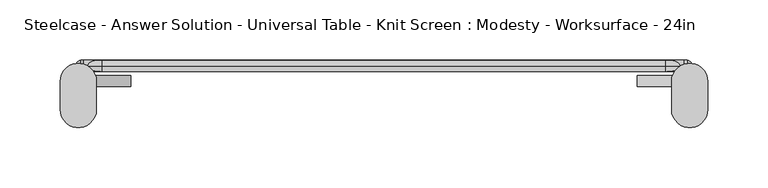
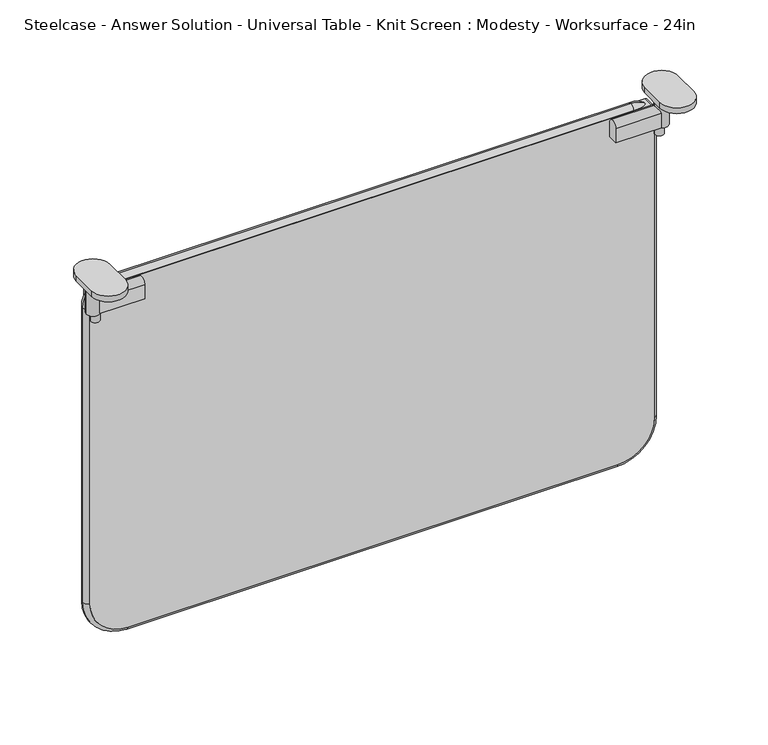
"""IFC4 building model written with IfcOpenShell, lengths in millimetres: furniture geometry, Steelcase - Answer Solution - Universal Table - Knit Screen : Modesty - Worksurface - 24in."""

from ifc_helpers import new_model, si_unit, point, frame, frame_2d, origin, place, context, project, spatial, polyline, circle_curve, ellipse_curve, trimmed, segment, composite_curve, outline, extrude, source, transform, mapped, element, save
from ifc_brep_helpers import plane_surface, cylinder_surface, revolved_surface, advanced_brep


def steelcase_answer_solution_universal_table_knit_screen_e3ca921f(model_context):
    return source(origin(), model_context, "Body", "SolidModel", [
        extrude(outline(composite_curve([segment(polyline([(-29.128946, 652.4216837), (-29.128946, 665.7829841)]), True, "CONTINUOUS"), segment(trimmed(circle_curve(frame_2d((-24.4350465, 665.7829841)), 4.6938995), [point((-29.128946, 665.7829841))], [point((-19.7411469, 665.7829841))], False, "CARTESIAN"), True, "CONTINUOUS"), segment(polyline([(-19.7411469, 665.7829841), (-19.7411469, 652.4216837), (-29.128946, 652.4216837)]), True, "CONTINUOUS")], self_intersect=False)), frame((511.8167228, 0.0, 0.0), z_axis=(1.0, 0.0, 0.0), x_axis=(0.0, 1.0, 0.0)), (0.0, 0.0, 1.0), 43.5285515),
        extrude(outline(composite_curve([segment(trimmed(circle_curve(frame_2d((553.4143327, -24.4352196)), 3.96875), [point((557.3830827, -24.4352196))], [point((549.4455827, -24.4352196))], False, "CARTESIAN"), True, "CONTINUOUS"), segment(trimmed(circle_curve(frame_2d((553.4143327, -24.4352196)), 3.96875), [point((549.4455827, -24.4352196))], [point((557.3830827, -24.4352196))], False, "CARTESIAN"), True, "CONTINUOUS")], self_intersect=False)), frame((0.0, 0.0, 644.3415626), z_axis=(0.0, 0.0, 1.0), x_axis=(1.0, 0.0, 0.0)), (0.0, 0.0, 1.0), 8.0801211),
        extrude(outline(composite_curve([segment(trimmed(circle_curve(frame_2d((555.3452743, -24.4352196)), 5.8800133), [point((561.2252876, -24.4352196))], [point((549.465261, -24.4352196))], False, "CARTESIAN"), True, "CONTINUOUS"), segment(trimmed(circle_curve(frame_2d((555.3452743, -24.4352196)), 5.8800133), [point((549.465261, -24.4352196))], [point((561.2252876, -24.4352196))], False, "CARTESIAN"), True, "CONTINUOUS")], self_intersect=False)), frame((0.0, 0.0, 652.4216837), z_axis=(0.0, 0.0, 1.0), x_axis=(1.0, 0.0, 0.0)), (0.0, 0.0, 1.0), 34.3007611),
        extrude(outline(composite_curve([segment(polyline([(570.401332, -24.6349615), (570.401332, -48.0866189)]), True, "CONTINUOUS"), segment(trimmed(circle_curve(frame_2d((555.345565, -48.0866189)), 15.0557671), [point((570.401332, -48.0866189))], [point((540.2897979, -48.0866189))], False, "CARTESIAN"), True, "CONTINUOUS"), segment(polyline([(540.2897979, -48.0866189), (540.2897979, -24.6349615)]), True, "CONTINUOUS"), segment(trimmed(circle_curve(frame_2d((555.345565, -24.6349615)), 15.0557671), [point((540.2897979, -24.6349615))], [point((570.401332, -24.6349615))], False, "CARTESIAN"), True, "CONTINUOUS")], self_intersect=False)), frame((0.0, 0.0, 686.7224448), z_axis=(0.0, 0.0, 1.0), x_axis=(1.0, 0.0, 0.0)), (0.0, 0.0, 1.0), 5.4275552),
        extrude(outline(composite_curve([segment(polyline([(-29.128946, 652.4216837), (-29.128946, 665.7829841)]), True, "CONTINUOUS"), segment(trimmed(circle_curve(frame_2d((-24.4350465, 665.7829841)), 4.6938995), [point((-29.128946, 665.7829841))], [point((-19.7411469, 665.7829841))], False, "CARTESIAN"), True, "CONTINUOUS"), segment(polyline([(-19.7411469, 665.7829841), (-19.7411469, 652.4216837), (-29.128946, 652.4216837)]), True, "CONTINUOUS")], self_intersect=False)), frame((47.6108911, 0.0, 0.0), z_axis=(1.0, 0.0, 0.0), x_axis=(0.0, 1.0, 0.0)), (0.0, 0.0, 1.0), 43.5285515),
        extrude(outline(composite_curve([segment(trimmed(circle_curve(frame_2d((49.5418327, -24.4352196)), 3.96875), [point((45.5730827, -24.4352196))], [point((53.5105827, -24.4352196))], False, "CARTESIAN"), True, "CONTINUOUS"), segment(trimmed(circle_curve(frame_2d((49.5418327, -24.4352196)), 3.96875), [point((53.5105827, -24.4352196))], [point((45.5730827, -24.4352196))], False, "CARTESIAN"), True, "CONTINUOUS")], self_intersect=False)), frame((0.0, 0.0, 644.3415626), z_axis=(0.0, 0.0, 1.0), x_axis=(1.0, 0.0, 0.0)), (0.0, 0.0, 1.0), 8.0801211),
        extrude(outline(composite_curve([segment(trimmed(circle_curve(frame_2d((47.6108911, -24.4352196)), 5.8800133), [point((41.7308778, -24.4352196))], [point((53.4909043, -24.4352196))], False, "CARTESIAN"), True, "CONTINUOUS"), segment(trimmed(circle_curve(frame_2d((47.6108911, -24.4352196)), 5.8800133), [point((53.4909043, -24.4352196))], [point((41.7308778, -24.4352196))], False, "CARTESIAN"), True, "CONTINUOUS")], self_intersect=False)), frame((0.0, 0.0, 652.4216837), z_axis=(0.0, 0.0, 1.0), x_axis=(1.0, 0.0, 0.0)), (0.0, 0.0, 1.0), 34.3007611),
        extrude(outline(composite_curve([segment(trimmed(circle_curve(frame_2d((47.6106004, -24.6349615)), 15.0557671), [point((32.5548333, -24.6349615))], [point((62.6663674, -24.6349615))], False, "CARTESIAN"), True, "CONTINUOUS"), segment(polyline([(62.6663674, -24.6349615), (62.6663674, -48.0866189)]), True, "CONTINUOUS"), segment(trimmed(circle_curve(frame_2d((47.6106004, -48.0866189)), 15.0557671), [point((62.6663674, -48.0866189))], [point((32.5548333, -48.0866189))], False, "CARTESIAN"), True, "CONTINUOUS"), segment(polyline([(32.5548333, -48.0866189), (32.5548333, -24.6349615)]), True, "CONTINUOUS")], self_intersect=False)), frame((0.0, 0.0, 686.7224448), z_axis=(0.0, 0.0, 1.0), x_axis=(1.0, 0.0, 0.0)), (0.0, 0.0, 1.0), 5.4275552),
        extrude(outline(composite_curve([segment(trimmed(circle_curve(frame_2d((370.6234529, 520.3969049)), 33.0004615), [point((337.6229913, 520.3969049))], [point((370.6234529, 553.3973664))], False, "CARTESIAN"), True, "CONTINUOUS"), segment(polyline([(370.6234529, 553.3973664), (663.9643507, 553.3973664)]), True, "CONTINUOUS"), segment(trimmed(circle_curve(frame_2d((663.9643507, 550.5924906)), 2.8048758), [point((663.9643507, 553.3973664))], [point((666.7692266, 550.5924906))], False, "CARTESIAN"), True, "CONTINUOUS"), segment(polyline([(666.7692266, 550.5924906), (666.7692266, 51.8743664)]), True, "CONTINUOUS"), segment(trimmed(circle_curve(frame_2d((664.4536591, 51.8743664)), 2.3155675), [point((666.7692266, 51.8743664))], [point((664.4536591, 49.5587989))], False, "CARTESIAN"), True, "CONTINUOUS"), segment(polyline([(664.4536591, 49.5587989), (371.5400738, 49.5587989)]), True, "CONTINUOUS"), segment(trimmed(circle_curve(frame_2d((371.5400738, 83.4758814)), 33.9170825), [point((371.5400738, 49.5587989))], [point((337.6229913, 83.4758814))], False, "CARTESIAN"), True, "CONTINUOUS"), segment(polyline([(337.6229913, 83.4758814), (337.6229913, 520.3969049)]), True, "CONTINUOUS")], self_intersect=False)), frame((0.0, -16.5783031, 0.0), z_axis=(0.0, 1.0, 0.0), x_axis=(0.0, 0.0, 1.0)), (0.0, 0.0, 1.0), 9.6878455),
        advanced_brep(
        [(45.5730839, -11.7343804, 649.3406591), (66.9873664, -11.7343804, 670.7549416), (66.9873664, -6.8904577, 666.7692266), (49.5587989, -6.8904577, 649.3406591), (49.5587989, -16.5783031, 649.3406591), (66.9873664, -16.5783031, 666.7692266), (49.5587989, -6.8904577, 371.5400738), (45.5730839, -11.7343804, 371.5400738), (49.5587989, -16.5783031, 371.5400738), (83.4758814, -11.7343804, 333.6372763), (83.4758814, -6.8904577, 337.6229913), (83.4758814, -16.5783031, 337.6229913), (520.3969049, -6.8904577, 337.6229913), (520.3969049, -11.7343804, 333.6372763), (520.3969049, -16.5783031, 337.6229913), (557.3830815, -11.7343804, 370.6234529), (553.3973664, -6.8904577, 370.6234529), (553.3973664, -16.5783031, 370.6234529), (553.3973664, -6.8904577, 648.8513507), (557.3830815, -11.7343804, 648.8513507), (553.3973664, -16.5783031, 648.8513507), (535.4794906, -11.7343804, 670.7549416), (535.4794906, -6.8904577, 666.7692266), (535.4794906, -16.5783031, 666.7692266)],
        [
            (0, 1, circle_curve(frame((66.9873664, -11.7343804, 649.3406591), z_axis=(0.0, 1.0, 0.0), x_axis=(0.0, 0.0, 1.0)), 21.4142825)),
            (1, 2, circle_curve(frame((66.9873664, -11.7343804, 665.8186238), z_axis=(-1.0, 0.0, 0.0), x_axis=(0.0, 0.0, 1.0)), 4.9363178)),
            (2, 3, circle_curve(frame((66.9873664, -6.8904577, 649.3406591), z_axis=(0.0, -1.0, 0.0), x_axis=(0.0, 0.0, 1.0)), 17.4285675)),
            (3, 0, circle_curve(frame((50.5094016, -11.7343804, 649.3406591), z_axis=(0.0, 0.0, 1.0), x_axis=(-1.0, 0.0, 0.0)), 4.9363178)),
            (4, 5, circle_curve(frame((66.9873664, -16.5783031, 649.3406591), z_axis=(0.0, 1.0, 0.0), x_axis=(0.0, 0.0, 1.0)), 17.4285675)),
            (5, 1, circle_curve(frame((66.9873664, -11.7343804, 665.8186238), z_axis=(-1.0, 0.0, 0.0), x_axis=(0.0, 0.0, 1.0)), 4.9363178)),
            (0, 4, circle_curve(frame((50.5094016, -11.7343804, 649.3406591), z_axis=(0.0, 0.0, 1.0), x_axis=(-1.0, 0.0, 0.0)), 4.9363178)),
            (2, 5),
            (4, 3),
            (3, 6),
            (6, 7, circle_curve(frame((50.5094016, -11.7343804, 371.5400738), z_axis=(0.0, 0.0, 1.0), x_axis=(-1.0, 0.0, 0.0)), 4.9363178)),
            (7, 0),
            (7, 8, circle_curve(frame((50.5094016, -11.7343804, 371.5400738), z_axis=(0.0, 0.0, 1.0), x_axis=(-1.0, 0.0, 0.0)), 4.9363178)),
            (8, 4),
            (8, 6),
            (9, 7, circle_curve(frame((83.4758814, -11.7343804, 371.5400738), z_axis=(0.0, 1.0, 0.0), x_axis=(-1.0, 0.0, 0.0)), 37.9027975)),
            (6, 10, circle_curve(frame((83.4758814, -6.8904577, 371.5400738), z_axis=(0.0, -1.0, 0.0), x_axis=(-1.0, 0.0, 0.0)), 33.9170825)),
            (10, 9, circle_curve(frame((83.4758814, -11.7343804, 338.573594), z_axis=(-1.0, 0.0, 0.0), x_axis=(0.0, 0.0, -1.0)), 4.9363178)),
            (11, 8, circle_curve(frame((83.4758814, -16.5783031, 371.5400738), z_axis=(0.0, 1.0, 0.0), x_axis=(-1.0, 0.0, 0.0)), 33.9170825)),
            (9, 11, circle_curve(frame((83.4758814, -11.7343804, 338.573594), z_axis=(-1.0, 0.0, 0.0), x_axis=(0.0, 0.0, -1.0)), 4.9363178)),
            (11, 10),
            (10, 12),
            (12, 13, circle_curve(frame((520.3969049, -11.7343804, 338.573594), z_axis=(-1.0, 0.0, 0.0), x_axis=(0.0, 0.0, -1.0)), 4.9363178)),
            (13, 9),
            (13, 14, circle_curve(frame((520.3969049, -11.7343804, 338.573594), z_axis=(-1.0, 0.0, 0.0), x_axis=(0.0, 0.0, -1.0)), 4.9363178)),
            (14, 11),
            (14, 12),
            (15, 13, circle_curve(frame((520.3969049, -11.7343804, 370.6234529), z_axis=(0.0, 1.0, 0.0), x_axis=(0.0, 0.0, -1.0)), 36.9861766)),
            (12, 16, circle_curve(frame((520.3969049, -6.8904577, 370.6234529), z_axis=(0.0, -1.0, 0.0), x_axis=(0.0, 0.0, -1.0)), 33.0004615)),
            (16, 15, circle_curve(frame((552.4467637, -11.7343804, 370.6234529), z_axis=(0.0, 0.0, -1.0), x_axis=(1.0, 0.0, 0.0)), 4.9363178)),
            (17, 14, circle_curve(frame((520.3969049, -16.5783031, 370.6234529), z_axis=(0.0, 1.0, 0.0), x_axis=(0.0, 0.0, -1.0)), 33.0004615)),
            (15, 17, circle_curve(frame((552.4467637, -11.7343804, 370.6234529), z_axis=(0.0, 0.0, -1.0), x_axis=(1.0, 0.0, 0.0)), 4.9363178)),
            (17, 16),
            (16, 18),
            (18, 19, circle_curve(frame((552.4467637, -11.7343804, 648.8513507), z_axis=(0.0, 0.0, -1.0), x_axis=(1.0, 0.0, 0.0)), 4.9363178)),
            (19, 15),
            (19, 20, circle_curve(frame((552.4467637, -11.7343804, 648.8513507), z_axis=(0.0, 0.0, -1.0), x_axis=(1.0, 0.0, 0.0)), 4.9363178)),
            (20, 17),
            (20, 18),
            (21, 19, circle_curve(frame((535.4794906, -11.7343804, 648.8513507), z_axis=(0.0, 1.0, 0.0), x_axis=(1.0, 0.0, 0.0)), 21.9035909)),
            (18, 22, circle_curve(frame((535.4794906, -6.8904577, 648.8513507), z_axis=(0.0, -1.0, 0.0), x_axis=(1.0, 0.0, 0.0)), 17.9178758)),
            (22, 21, circle_curve(frame((535.4794906, -11.7343804, 665.8186238), z_axis=(1.0, 0.0, 0.0), x_axis=(0.0, 0.0, 1.0)), 4.9363178)),
            (23, 20, circle_curve(frame((535.4794906, -16.5783031, 648.8513507), z_axis=(0.0, 1.0, 0.0), x_axis=(1.0, 0.0, 0.0)), 17.9178758)),
            (21, 23, circle_curve(frame((535.4794906, -11.7343804, 665.8186238), z_axis=(1.0, 0.0, 0.0), x_axis=(0.0, 0.0, 1.0)), 4.9363178)),
            (23, 22),
            (22, 2),
            (1, 21),
            (5, 23),
        ],
        [
            revolved_surface(trimmed(ellipse_curve(frame((66.9873664, -11.7343804, 665.8186238), z_axis=(1.0, 0.0, 0.0), x_axis=(0.0, 0.0, 1.0)), 4.9363178, 4.9363178), [point((66.9873664, -6.8904577, 666.7692266))], [point((66.9873664, -11.7343804, 670.7549416))], True, "CARTESIAN"), (66.9873664, -11.7343804, 649.3406591), (0.0, -1.0, 0.0)),
            revolved_surface(trimmed(ellipse_curve(frame((66.9873664, -11.7343804, 665.8186238), z_axis=(1.0, 0.0, 0.0), x_axis=(0.0, 0.0, 1.0)), 4.9363178, 4.9363178), [point((66.9873664, -11.7343804, 670.7549416))], [point((66.9873664, -16.5783031, 666.7692266))], True, "CARTESIAN"), (66.9873664, -11.7343804, 649.3406591), (0.0, -1.0, 0.0)),
            revolved_surface(polyline([(66.9873664, -16.5783031, 666.7692266), (66.9873664, -6.8904577, 666.7692266)]), (66.9873664, -11.7343804, 649.3406591), (0.0, -1.0, 0.0)),
            cylinder_surface(frame((50.5094016, -11.7343804, 649.3406591), z_axis=(0.0, 0.0, 1.0), x_axis=(-1.0, 0.0, 0.0)), 4.9363178),
            plane_surface(frame((49.5587989, -16.5783031, 649.3406591), z_axis=(1.0, 0.0, 0.0), x_axis=(0.0, 0.0, -1.0))),
            revolved_surface(trimmed(ellipse_curve(frame((50.5094016, -11.7343804, 371.5400738), z_axis=(0.0, 0.0, 1.0), x_axis=(-1.0, 0.0, 0.0)), 4.9363178, 4.9363178), [point((49.5587989, -6.8904577, 371.5400738))], [point((45.5730839, -11.7343804, 371.5400738))], True, "CARTESIAN"), (83.4758814, -11.7343804, 371.5400738), (0.0, -1.0, 0.0)),
            revolved_surface(trimmed(ellipse_curve(frame((50.5094016, -11.7343804, 371.5400738), z_axis=(0.0, 0.0, 1.0), x_axis=(-1.0, 0.0, 0.0)), 4.9363178, 4.9363178), [point((45.5730839, -11.7343804, 371.5400738))], [point((49.5587989, -16.5783031, 371.5400738))], True, "CARTESIAN"), (83.4758814, -11.7343804, 371.5400738), (0.0, -1.0, 0.0)),
            revolved_surface(polyline([(49.558798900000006, -16.5783031, 371.5400738), (49.558798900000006, -6.8904577, 371.5400738)]), (83.4758814, -11.7343804, 371.5400738), (0.0, -1.0, 0.0)),
            cylinder_surface(frame((83.4758814, -11.7343804, 338.573594), z_axis=(-1.0, 0.0, 0.0), x_axis=(0.0, 0.0, -1.0)), 4.9363178),
            plane_surface(frame((83.4758814, -16.5783031, 337.6229913), z_axis=(0.0, 0.0, 1.0), x_axis=(1.0, 0.0, 0.0))),
            revolved_surface(trimmed(ellipse_curve(frame((520.3969049, -11.7343804, 338.573594), z_axis=(-1.0, 0.0, 0.0), x_axis=(0.0, 0.0, -1.0)), 4.9363178, 4.9363178), [point((520.3969049, -6.8904577, 337.6229913))], [point((520.3969049, -11.7343804, 333.6372763))], True, "CARTESIAN"), (520.3969049, -11.7343804, 370.6234529), (0.0, -1.0, 0.0)),
            revolved_surface(trimmed(ellipse_curve(frame((520.3969049, -11.7343804, 338.573594), z_axis=(-1.0, 0.0, 0.0), x_axis=(0.0, 0.0, -1.0)), 4.9363178, 4.9363178), [point((520.3969049, -11.7343804, 333.6372763))], [point((520.3969049, -16.5783031, 337.6229913))], True, "CARTESIAN"), (520.3969049, -11.7343804, 370.6234529), (0.0, -1.0, 0.0)),
            revolved_surface(polyline([(520.3969049, -16.5783031, 337.62299140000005), (520.3969049, -6.8904577, 337.62299140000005)]), (520.3969049, -11.7343804, 370.6234529), (0.0, -1.0, 0.0)),
            cylinder_surface(frame((552.4467637, -11.7343804, 370.6234529), z_axis=(0.0, 0.0, -1.0), x_axis=(1.0, 0.0, 0.0)), 4.9363178),
            plane_surface(frame((553.3973664, -16.5783031, 370.6234529), z_axis=(-1.0, 0.0, 0.0), x_axis=(0.0, 0.0, 1.0))),
            revolved_surface(trimmed(ellipse_curve(frame((552.4467637, -11.7343804, 648.8513507), z_axis=(0.0, 0.0, -1.0), x_axis=(1.0, 0.0, 0.0)), 4.9363178, 4.9363178), [point((553.3973664, -6.8904577, 648.8513507))], [point((557.3830815, -11.7343804, 648.8513507))], True, "CARTESIAN"), (535.4794906, -11.7343804, 648.8513507), (0.0, -1.0, 0.0)),
            revolved_surface(trimmed(ellipse_curve(frame((552.4467637, -11.7343804, 648.8513507), z_axis=(0.0, 0.0, -1.0), x_axis=(1.0, 0.0, 0.0)), 4.9363178, 4.9363178), [point((557.3830815, -11.7343804, 648.8513507))], [point((553.3973664, -16.5783031, 648.8513507))], True, "CARTESIAN"), (535.4794906, -11.7343804, 648.8513507), (0.0, -1.0, 0.0)),
            revolved_surface(polyline([(553.3973664, -16.5783031, 648.8513507), (553.3973664, -6.8904577, 648.8513507)]), (535.4794906, -11.7343804, 648.8513507), (0.0, -1.0, 0.0)),
            cylinder_surface(frame((535.4794906, -11.7343804, 665.8186238), z_axis=(1.0, 0.0, 0.0), x_axis=(0.0, 0.0, 1.0)), 4.9363178),
            plane_surface(frame((535.4794906, -16.5783031, 666.7692266), z_axis=(0.0, 0.0, -1.0), x_axis=(-1.0, 0.0, 0.0))),
        ],
        [
            (0, [[1, 2, 3, 4]]),
            (1, [[5, 6, -1, 7]]),
            (2, [[-3, 8, -5, 9]]),
            (3, [[-4, 10, 11, 12]]),
            (3, [[-7, -12, 13, 14]]),
            (4, [[-9, -14, 15, -10]]),
            (5, [[16, -11, 17, 18]]),
            (6, [[19, -13, -16, 20]]),
            (7, [[-17, -15, -19, 21]]),
            (8, [[-18, 22, 23, 24]]),
            (8, [[-20, -24, 25, 26]]),
            (9, [[-21, -26, 27, -22]]),
            (10, [[28, -23, 29, 30]]),
            (11, [[31, -25, -28, 32]]),
            (12, [[-29, -27, -31, 33]]),
            (13, [[-30, 34, 35, 36]]),
            (13, [[-32, -36, 37, 38]]),
            (14, [[-33, -38, 39, -34]]),
            (15, [[40, -35, 41, 42]]),
            (16, [[43, -37, -40, 44]]),
            (17, [[-41, -39, -43, 45]]),
            (18, [[-42, 46, -2, 47]]),
            (18, [[-44, -47, -6, 48]]),
            (19, [[-45, -48, -8, -46]]),
        ],
    ),
    ])


if __name__ == "__main__":
    model = new_model("IFC4")
    model_context = context("Model", 3, world=origin())
    ifc_project = project(units=[si_unit("LENGTHUNIT", "METRE", prefix="MILLI")], contexts=[model_context])
    site = spatial("IfcSite", under=ifc_project)
    building = spatial("IfcBuilding", under=site)
    placement = place(None, origin())
    steelcase_answer_solution_universal_table_knit_screen_shape = steelcase_answer_solution_universal_table_knit_screen_e3ca921f(model_context)
    element("IfcFurniture", 1, ObjectType="Steelcase - Answer Solution - Universal Table - Knit Screen : Modesty - Worksurface - 24in", at=placement, inside=building, context=model_context, shape_type="MappedRepresentation", body=[
        mapped(steelcase_answer_solution_universal_table_knit_screen_shape, transform((0.0, 0.0, 0.0), x_axis=(1.0, 0.0, 0.0), y_axis=(0.0, 1.0, 0.0), z_axis=(0.0, 0.0, 1.0))),
    ])
    save(model, "model.ifc")
